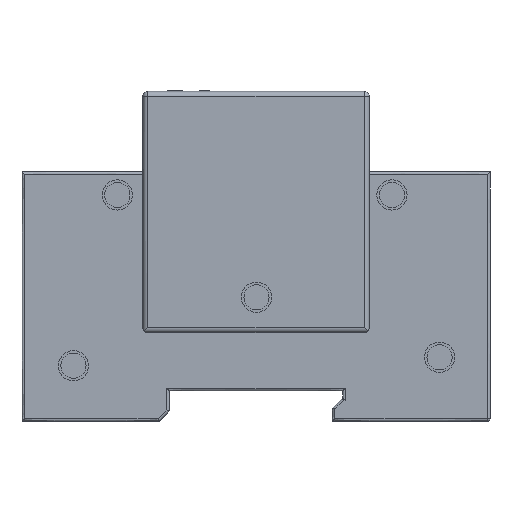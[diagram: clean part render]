
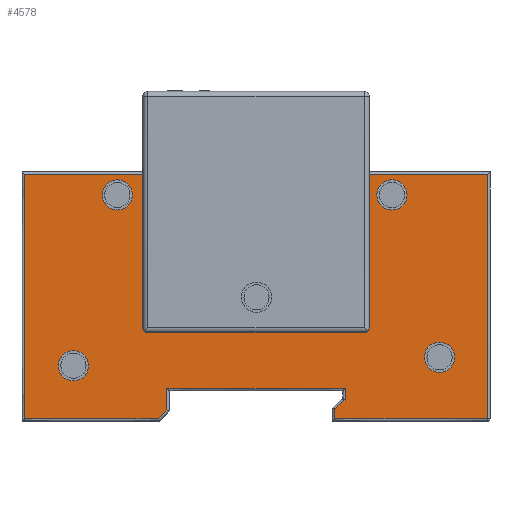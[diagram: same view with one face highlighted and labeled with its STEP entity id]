
A CAD part, left-side view. The second image highlights one B-rep face of the part: STEP entity #4578.
In plain terms, the highlighted planar face has unit normal (-1, 0, 0).
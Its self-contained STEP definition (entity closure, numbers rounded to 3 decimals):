
#166=FACE_BOUND('',#879,.T.);
#167=FACE_BOUND('',#880,.T.);
#168=FACE_BOUND('',#881,.T.);
#169=FACE_BOUND('',#882,.T.);
#360=PLANE('',#4908);
#570=FACE_OUTER_BOUND('',#878,.T.);
#878=EDGE_LOOP('',(#3404,#3405,#3406,#3407,#3408,#3409,#3410,#3411,#3412,
#3413,#3414,#3415,#3416,#3417,#3418,#3419,#3420,#3421));
#879=EDGE_LOOP('',(#3422));
#880=EDGE_LOOP('',(#3423));
#881=EDGE_LOOP('',(#3424));
#882=EDGE_LOOP('',(#3425));
#1164=LINE('',#6327,#1574);
#1168=LINE('',#6339,#1578);
#1199=LINE('',#6511,#1609);
#1226=LINE('',#6627,#1636);
#1227=LINE('',#6804,#1637);
#1228=LINE('',#6834,#1638);
#1229=LINE('',#6876,#1639);
#1230=LINE('',#6918,#1640);
#1231=LINE('',#6960,#1641);
#1232=LINE('',#7002,#1642);
#1233=LINE('',#7044,#1643);
#1234=LINE('',#7086,#1644);
#1235=LINE('',#7128,#1645);
#1236=LINE('',#7183,#1646);
#1237=LINE('',#7224,#1647);
#1238=LINE('',#7253,#1648);
#1574=VECTOR('',#5191,10.);
#1578=VECTOR('',#5203,10.);
#1609=VECTOR('',#5308,10.);
#1636=VECTOR('',#5359,10.);
#1637=VECTOR('',#5360,10.);
#1638=VECTOR('',#5361,10.);
#1639=VECTOR('',#5362,10.);
#1640=VECTOR('',#5363,10.);
#1641=VECTOR('',#5364,10.);
#1642=VECTOR('',#5365,10.);
#1643=VECTOR('',#5366,10.);
#1644=VECTOR('',#5367,10.);
#1645=VECTOR('',#5368,10.);
#1646=VECTOR('',#5369,10.);
#1647=VECTOR('',#5370,10.);
#1648=VECTOR('',#5371,10.);
#1982=CIRCLE('',#4818,1.);
#1984=CIRCLE('',#4822,1.);
#2003=CIRCLE('',#4893,3.);
#2005=CIRCLE('',#4897,3.);
#2007=CIRCLE('',#4901,3.);
#2009=CIRCLE('',#4905,3.);
#2076=VERTEX_POINT('',#6317);
#2077=VERTEX_POINT('',#6318);
#2080=VERTEX_POINT('',#6326);
#2082=VERTEX_POINT('',#6332);
#2084=VERTEX_POINT('',#6338);
#2120=VERTEX_POINT('',#6497);
#2134=VERTEX_POINT('',#6626);
#2135=VERTEX_POINT('',#6761);
#2136=VERTEX_POINT('',#6833);
#2137=VERTEX_POINT('',#6875);
#2138=VERTEX_POINT('',#6917);
#2139=VERTEX_POINT('',#6959);
#2140=VERTEX_POINT('',#7001);
#2141=VERTEX_POINT('',#7043);
#2142=VERTEX_POINT('',#7085);
#2143=VERTEX_POINT('',#7127);
#2144=VERTEX_POINT('',#7169);
#2145=VERTEX_POINT('',#7182);
#2155=VERTEX_POINT('',#7282);
#2157=VERTEX_POINT('',#7288);
#2159=VERTEX_POINT('',#7294);
#2161=VERTEX_POINT('',#7300);
#2514=EDGE_CURVE('',#2076,#2077,#1982,.T.);
#2518=EDGE_CURVE('',#2077,#2080,#1164,.T.);
#2521=EDGE_CURVE('',#2080,#2082,#1984,.T.);
#2524=EDGE_CURVE('',#2082,#2084,#1168,.T.);
#2577=EDGE_CURVE('',#2120,#2076,#1199,.T.);
#2605=EDGE_CURVE('',#2084,#2134,#1226,.T.);
#2609=EDGE_CURVE('',#2134,#2135,#1227,.T.);
#2610=EDGE_CURVE('',#2135,#2136,#1228,.T.);
#2612=EDGE_CURVE('',#2136,#2137,#1229,.T.);
#2614=EDGE_CURVE('',#2137,#2138,#1230,.T.);
#2616=EDGE_CURVE('',#2138,#2139,#1231,.T.);
#2618=EDGE_CURVE('',#2139,#2140,#1232,.T.);
#2620=EDGE_CURVE('',#2140,#2141,#1233,.T.);
#2622=EDGE_CURVE('',#2141,#2142,#1234,.T.);
#2624=EDGE_CURVE('',#2142,#2143,#1235,.T.);
#2627=EDGE_CURVE('',#2144,#2145,#1236,.T.);
#2629=EDGE_CURVE('',#2143,#2144,#1237,.T.);
#2630=EDGE_CURVE('',#2145,#2120,#1238,.T.);
#2640=EDGE_CURVE('',#2155,#2155,#2003,.T.);
#2642=EDGE_CURVE('',#2157,#2157,#2005,.T.);
#2644=EDGE_CURVE('',#2159,#2159,#2007,.T.);
#2646=EDGE_CURVE('',#2161,#2161,#2009,.T.);
#3404=ORIENTED_EDGE('',*,*,#2605,.F.);
#3405=ORIENTED_EDGE('',*,*,#2524,.F.);
#3406=ORIENTED_EDGE('',*,*,#2521,.F.);
#3407=ORIENTED_EDGE('',*,*,#2518,.F.);
#3408=ORIENTED_EDGE('',*,*,#2514,.F.);
#3409=ORIENTED_EDGE('',*,*,#2577,.F.);
#3410=ORIENTED_EDGE('',*,*,#2630,.F.);
#3411=ORIENTED_EDGE('',*,*,#2627,.F.);
#3412=ORIENTED_EDGE('',*,*,#2629,.F.);
#3413=ORIENTED_EDGE('',*,*,#2624,.F.);
#3414=ORIENTED_EDGE('',*,*,#2622,.F.);
#3415=ORIENTED_EDGE('',*,*,#2620,.F.);
#3416=ORIENTED_EDGE('',*,*,#2618,.F.);
#3417=ORIENTED_EDGE('',*,*,#2616,.F.);
#3418=ORIENTED_EDGE('',*,*,#2614,.F.);
#3419=ORIENTED_EDGE('',*,*,#2612,.F.);
#3420=ORIENTED_EDGE('',*,*,#2610,.F.);
#3421=ORIENTED_EDGE('',*,*,#2609,.F.);
#3422=ORIENTED_EDGE('',*,*,#2640,.T.);
#3423=ORIENTED_EDGE('',*,*,#2642,.T.);
#3424=ORIENTED_EDGE('',*,*,#2644,.T.);
#3425=ORIENTED_EDGE('',*,*,#2646,.T.);
#4578=ADVANCED_FACE('',(#570,#166,#167,#168,#169),#360,.F.);
#4818=AXIS2_PLACEMENT_3D('',#6319,#5183,#5184);
#4822=AXIS2_PLACEMENT_3D('',#6333,#5196,#5197);
#4893=AXIS2_PLACEMENT_3D('',#7283,#5410,#5411);
#4897=AXIS2_PLACEMENT_3D('',#7289,#5418,#5419);
#4901=AXIS2_PLACEMENT_3D('',#7295,#5426,#5427);
#4905=AXIS2_PLACEMENT_3D('',#7301,#5434,#5435);
#4908=AXIS2_PLACEMENT_3D('',#7304,#5440,#5441);
#5183=DIRECTION('center_axis',(-1.,0.,0.));
#5184=DIRECTION('ref_axis',(0.,0.707,-0.707));
#5191=DIRECTION('',(0.,-1.,0.));
#5196=DIRECTION('center_axis',(-1.,0.,0.));
#5197=DIRECTION('ref_axis',(0.,-0.707,-0.707));
#5203=DIRECTION('',(0.,0.,1.));
#5308=DIRECTION('',(0.,0.,-1.));
#5359=DIRECTION('',(0.,-1.,0.));
#5360=DIRECTION('',(0.,0.,-1.));
#5361=DIRECTION('',(0.,1.,0.));
#5362=DIRECTION('',(0.,0.,1.));
#5363=DIRECTION('',(0.,-0.707,0.707));
#5364=DIRECTION('',(0.,-1.,0.));
#5365=DIRECTION('',(0.,0.,1.));
#5366=DIRECTION('',(0.,1.,0.));
#5367=DIRECTION('',(0.,0.,-1.));
#5368=DIRECTION('',(0.,0.707,-0.707));
#5369=DIRECTION('',(0.,0.,1.));
#5370=DIRECTION('',(0.,1.,0.));
#5371=DIRECTION('',(0.,-1.,0.));
#5410=DIRECTION('center_axis',(1.,0.,0.));
#5411=DIRECTION('ref_axis',(0.,0.,-1.));
#5418=DIRECTION('center_axis',(1.,0.,0.));
#5419=DIRECTION('ref_axis',(0.,0.,-1.));
#5426=DIRECTION('center_axis',(1.,0.,0.));
#5427=DIRECTION('ref_axis',(0.,0.,-1.));
#5434=DIRECTION('center_axis',(1.,0.,0.));
#5435=DIRECTION('ref_axis',(0.,0.,-1.));
#5440=DIRECTION('center_axis',(1.,0.,0.));
#5441=DIRECTION('ref_axis',(0.,0.,-1.));
#6317=CARTESIAN_POINT('',(0.,26.84,-10.543));
#6318=CARTESIAN_POINT('',(0.,25.84,-11.543));
#6319=CARTESIAN_POINT('Origin',(0.,25.84,-10.543));
#6326=CARTESIAN_POINT('',(0.,-17.16,-11.543));
#6327=CARTESIAN_POINT('',(0.,26.84,-11.543));
#6332=CARTESIAN_POINT('',(0.,-18.16,-10.543));
#6333=CARTESIAN_POINT('Origin',(0.,-17.16,-10.543));
#6338=CARTESIAN_POINT('',(0.,-18.16,19.908));
#6339=CARTESIAN_POINT('',(0.,-18.16,-11.543));
#6497=CARTESIAN_POINT('',(0.,26.84,19.908));
#6511=CARTESIAN_POINT('',(0.,26.84,20.408));
#6626=CARTESIAN_POINT('',(0.,-41.66,19.908));
#6627=CARTESIAN_POINT('',(0.,-6.994,19.908));
#6761=CARTESIAN_POINT('',(0.,-41.66,-28.592));
#6804=CARTESIAN_POINT('',(0.,-41.66,6.692));
#6833=CARTESIAN_POINT('',(0.,-11.313,-28.592));
#6834=CARTESIAN_POINT('',(0.,-18.994,-28.592));
#6875=CARTESIAN_POINT('',(0.,-11.313,-26.734));
#6876=CARTESIAN_POINT('',(0.,-11.313,-18.058));
#6917=CARTESIAN_POINT('',(0.,-13.02,-25.027));
#6918=CARTESIAN_POINT('',(0.,-12.296,-25.751));
#6959=CARTESIAN_POINT('',(0.,-13.41,-25.027));
#6960=CARTESIAN_POINT('',(0.,-4.32,-25.027));
#7001=CARTESIAN_POINT('',(0.,-13.41,-22.592));
#7002=CARTESIAN_POINT('',(0.,-13.41,-15.775));
#7043=CARTESIAN_POINT('',(0.,22.09,-22.592));
#7044=CARTESIAN_POINT('',(0.,-4.369,-22.592));
#7085=CARTESIAN_POINT('',(0.,22.09,-26.885));
#7086=CARTESIAN_POINT('',(0.,22.09,-15.058));
#7127=CARTESIAN_POINT('',(0.,23.797,-28.592));
#7128=CARTESIAN_POINT('',(0.,12.572,-17.367));
#7169=CARTESIAN_POINT('',(0.,50.34,-28.592));
#7182=CARTESIAN_POINT('',(0.,50.34,19.908));
#7183=CARTESIAN_POINT('',(0.,50.34,-18.058));
#7224=CARTESIAN_POINT('',(0.,13.881,-28.592));
#7253=CARTESIAN_POINT('',(0.,27.506,19.908));
#7282=CARTESIAN_POINT('',(0.,31.888,18.843));
#7283=CARTESIAN_POINT('Origin',(0.,31.888,15.843));
#7288=CARTESIAN_POINT('',(0.,40.611,-15.099));
#7289=CARTESIAN_POINT('Origin',(0.,40.611,-18.099));
#7294=CARTESIAN_POINT('',(0.,-32.132,-13.422));
#7295=CARTESIAN_POINT('Origin',(0.,-32.132,-16.422));
#7300=CARTESIAN_POINT('',(0.,-22.67,18.843));
#7301=CARTESIAN_POINT('Origin',(0.,-22.67,15.843));
#7304=CARTESIAN_POINT('Origin',(0.,4.172,-7.024));
